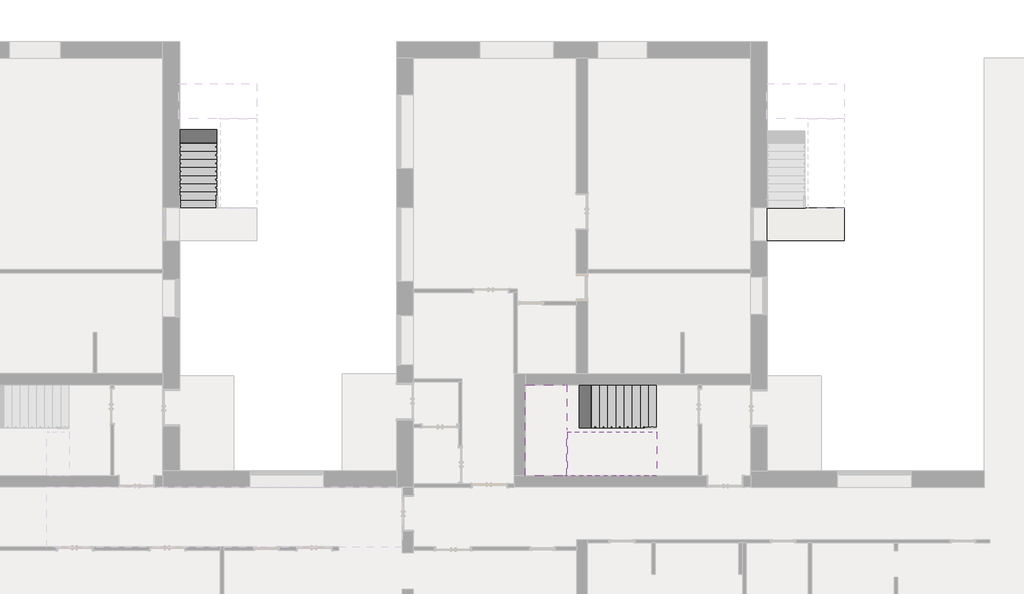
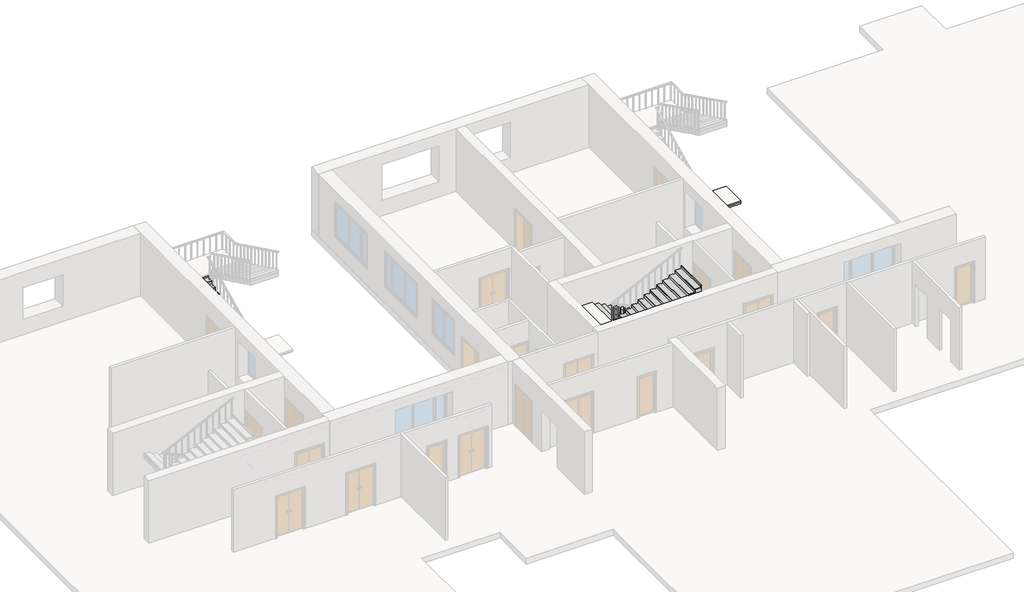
# One storey, part 8 of 10: 3 stair flights, 2 slabs.
"""IFC4 building model written with IfcOpenShell, lengths in millimetres."""

from ifc_helpers import new_model, si_unit, frame, origin, origin_with_axes, place, context, project, spatial, polyline, outline, extrude, faceted_brep, element, save

model = new_model("IFC4")

# Units and contexts
model_context = context("Model", 3, world=origin())
ifc_project = project(units=[si_unit("LENGTHUNIT", "METRE", prefix="MILLI")], contexts=[model_context])

# Site, building, storey
site = spatial("IfcSite", under=ifc_project)
building = spatial("IfcBuilding", under=site)
storey = spatial("IfcBuildingStorey", under=building, Name="1 этаж", Elevation=0.0)

# Slabs
placement = place(None, origin())
element("IfcSlab", 1, ObjectType="ADSK_Монолитная_С отделкой_200х80", at=placement, inside=storey, context=model_context, shape_type="SweptSolid", body=[
    extrude(outline(polyline([(-312.3240021, 16519.4362632), (-312.3240021, 15318.4207341), (-3162.3240021, 15318.4207341), (-3162.3240021, 16519.4362632), (-312.3240021, 16519.4362632)])), origin_with_axes(), (0.0, 0.0, 1.0), 65.8333333),
    extrude(outline(polyline([(-312.3240021, 15318.4207341), (-3162.3240021, 15318.4207341), (-3162.3240021, 16519.4362632), (-312.3240021, 16519.4362632), (-312.3240021, 15318.4207341)])), frame((0.0, 0.0, 65.8333333), z_axis=(0.0, 0.0, 1.0), x_axis=(1.0, 0.0, 0.0)), (0.0, 0.0, 1.0), 80.0),
])
element("IfcSlab", 2, ObjectType="ADSK_Монолитная_С отделкой_200х80", at=placement, inside=storey, context=model_context, shape_type="SolidModel", body=[
    faceted_brep([(-10541.6291278, 8412.4648158, 1697.7777778), (-10556.6291278, 8412.4648158, 1697.7777778), (-10556.6291278, 10004.6370105, 1697.7777778), (-10689.1475775, 10004.6370105, 1697.7777778), (-12072.3240021, 10004.6370105, 1697.7777778), (-12072.3240021, 6644.6370105, 1697.7777778), (-10694.1106781, 6644.6370105, 1697.7777778), (-10541.6291278, 6644.6370105, 1697.7777778), (-10526.6291278, 6644.6370105, 1697.7777778), (-10526.6291278, 8271.6648158, 1697.7777778), (-10541.6291278, 8271.6648158, 1697.7777778), (-10556.6291278, 8412.4648158, 1599.6296296), (-10556.6291278, 8412.4648158, 1497.7777778), (-10556.6291278, 8412.4648158, 1432.3365681), (-10556.6291278, 10004.6370105, 1432.3365681), (-10556.6291278, 10004.6370105, 1599.6296296), (-10541.6291278, 8271.6648158, 1573.0773088), (-10541.6291278, 8271.6648158, 1497.7777778), (-10541.6291278, 8412.4648158, 1497.7777778), (-10526.6291278, 6644.6370105, 1580.4847162), (-10526.6291278, 8271.6648158, 1580.4847162), (-10541.6291278, 6644.6370105, 1573.0773088), (-12072.3240021, 6644.6370105, 1497.7777778), (-10694.1106781, 6644.6370105, 1497.7777778), (-12072.3240021, 10004.6370105, 1497.7777778), (-10689.1475775, 10004.6370105, 1497.7777778), (-10694.1106781, 8271.6648158, 1497.7777778), (-10689.1475775, 8412.4648158, 1497.7777778)], [[[0, 1, 2, 3, 4, 5, 6, 7, 8, 9, 10]], [[2, 1, 11, 12, 13, 14, 15]], [[0, 10, 16, 17, 18]], [[9, 8, 19, 20]], [[8, 7, 21, 19]], [[5, 22, 23, 21, 7, 6]], [[5, 4, 24, 22]], [[2, 15, 14, 25, 24, 4, 3]], [[17, 26, 23, 22, 24, 25, 27, 12, 18]], [[27, 25, 14, 13]], [[12, 27, 13]], [[23, 26, 16, 20, 19, 21]], [[1, 0, 18, 12, 11]], [[10, 9, 20, 16]], [[26, 17, 16]]]),
    extrude(outline(polyline([(-10541.6291278, 8412.4648158), (-10541.6291278, 8271.6648158), (-10541.6291278, 6644.6370105), (-12072.3240021, 6644.6370105), (-12072.3240021, 10004.6370105), (-10541.6291278, 10004.6370105), (-10541.6291278, 8412.4648158)])), frame((0.0, 0.0, 1697.7777778), z_axis=(0.0, 0.0, 1.0), x_axis=(1.0, 0.0, 0.0)), (0.0, 0.0, 1.0), 80.0),
])

# Stair flights
element("IfcStairFlight", 3, ObjectType="ADSK_Монолитный_С отделкой_150х30х15", at=placement, inside=storey, context=model_context, shape_type="SolidModel", body=[
    faceted_brep([(-24802.3240021, 16834.4362632, 115.8333333), (-24802.3240021, 16534.4362632, 115.8333333), (-23422.7240021, 16534.4362632, 115.8333333), (-23422.7240021, 16834.4362632, 115.8333333), (-24802.3240021, 16834.4362632, 0.0), (-24802.3240021, 16534.4362632, 0.0), (-23422.7240021, 16534.4362632, 0.0), (-23422.7240021, 16834.4362632, 0.0), (-24802.3240021, 17134.4362632, 261.6666667), (-24802.3240021, 16834.4362632, 261.6666667), (-23422.7240021, 16834.4362632, 261.6666667), (-23422.7240021, 17134.4362632, 261.6666667), (-24802.3240021, 17134.4362632, 94.8828537), (-24802.3240021, 16939.2486785, 0.0), (-23422.7240021, 16939.2486785, 0.0), (-23422.7240021, 17134.4362632, 94.8828537), (-24802.3240021, 17434.4362632, 407.5), (-24802.3240021, 17134.4362632, 407.5), (-23422.7240021, 17134.4362632, 407.5), (-23422.7240021, 17434.4362632, 407.5), (-24802.3240021, 17434.4362632, 240.716187), (-23422.7240021, 17434.4362632, 240.716187), (-24802.3240021, 17734.4362632, 553.3333333), (-24802.3240021, 17434.4362632, 553.3333333), (-23422.7240021, 17434.4362632, 553.3333333), (-23422.7240021, 17734.4362632, 553.3333333), (-24802.3240021, 17734.4362632, 386.5495203), (-23422.7240021, 17734.4362632, 386.5495203), (-24802.3240021, 18034.4362632, 699.1666667), (-24802.3240021, 17734.4362632, 699.1666667), (-23422.7240021, 17734.4362632, 699.1666667), (-23422.7240021, 18034.4362632, 699.1666667), (-24802.3240021, 18034.4362632, 532.3828537), (-23422.7240021, 18034.4362632, 532.3828537), (-24802.3240021, 18334.4362632, 845.0), (-24802.3240021, 18034.4362632, 845.0), (-23422.7240021, 18034.4362632, 845.0), (-23422.7240021, 18334.4362632, 845.0), (-24802.3240021, 18334.4362632, 678.216187), (-23422.7240021, 18334.4362632, 678.216187), (-24802.3240021, 18634.4362632, 990.8333333), (-24802.3240021, 18334.4362632, 990.8333333), (-23422.7240021, 18334.4362632, 990.8333333), (-23422.7240021, 18634.4362632, 990.8333333), (-24802.3240021, 18634.4362632, 824.0495203), (-23422.7240021, 18634.4362632, 824.0495203), (-24802.3240021, 18934.4362632, 1136.6666667), (-24802.3240021, 18634.4362632, 1136.6666667), (-23422.7240021, 18634.4362632, 1136.6666667), (-23422.7240021, 18934.4362632, 1136.6666667), (-24802.3240021, 18934.4362632, 969.8828537), (-23422.7240021, 18934.4362632, 969.8828537), (-24802.3240021, 19234.4362632, 1282.5), (-24802.3240021, 18934.4362632, 1282.5), (-23422.7240021, 18934.4362632, 1282.5), (-23422.7240021, 19234.4362632, 1282.5), (-24802.3240021, 19234.4362632, 1115.716187), (-23422.7240021, 19234.4362632, 1115.716187), (-24802.3240021, 19534.4362632, 1428.3333333), (-24802.3240021, 19234.4362632, 1428.3333333), (-23422.7240021, 19234.4362632, 1428.3333333), (-23422.7240021, 19534.4362632, 1428.3333333), (-24802.3240021, 19534.4362632, 1261.5495203), (-23422.7240021, 19534.4362632, 1261.5495203), (-24802.3240021, 19534.4362632, 1574.1666667), (-23422.7240021, 19534.4362632, 1574.1666667), (-23422.7240021, 19819.4362632, 1574.1666667), (-23422.7240021, 19834.4362632, 1574.1666667), (-24802.3240021, 19834.4362632, 1574.1666667), (-24802.3240021, 19819.4362632, 1574.1666667), (-24802.3240021, 19834.4362632, 1470.0), (-24802.3240021, 19834.4362632, 1407.3828537), (-23422.7240021, 19834.4362632, 1407.3828537), (-23422.7240021, 19834.4362632, 1470.0)], [[[0, 1, 2, 3]], [[1, 0, 4, 5]], [[2, 1, 5, 6]], [[3, 2, 6, 7]], [[8, 9, 10, 11]], [[4, 0, 9, 8, 12, 13]], [[0, 3, 10, 9]], [[3, 7, 14, 15, 11, 10]], [[16, 17, 18, 19]], [[17, 16, 20, 12, 8]], [[8, 11, 18, 17]], [[19, 18, 11, 15, 21]], [[22, 23, 24, 25]], [[23, 22, 26, 20, 16]], [[16, 19, 24, 23]], [[25, 24, 19, 21, 27]], [[28, 29, 30, 31]], [[29, 28, 32, 26, 22]], [[22, 25, 30, 29]], [[31, 30, 25, 27, 33]], [[34, 35, 36, 37]], [[35, 34, 38, 32, 28]], [[28, 31, 36, 35]], [[37, 36, 31, 33, 39]], [[40, 41, 42, 43]], [[41, 40, 44, 38, 34]], [[34, 37, 42, 41]], [[43, 42, 37, 39, 45]], [[46, 47, 48, 49]], [[47, 46, 50, 44, 40]], [[40, 43, 48, 47]], [[49, 48, 43, 45, 51]], [[52, 53, 54, 55]], [[53, 52, 56, 50, 46]], [[46, 49, 54, 53]], [[55, 54, 49, 51, 57]], [[58, 59, 60, 61]], [[59, 58, 62, 56, 52]], [[52, 55, 60, 59]], [[61, 60, 55, 57, 63]], [[64, 65, 66, 67, 68, 69]], [[58, 64, 69, 68, 70, 71, 62]], [[58, 61, 65, 64]], [[65, 61, 63, 72, 73, 67, 66]], [[68, 67, 73, 72, 71, 70]], [[5, 4, 13, 14, 7, 6]], [[14, 13, 12, 20, 26, 32, 38, 44, 50, 56, 62, 71, 72, 63, 57, 51, 45, 39, 33, 27, 21, 15]]]),
    extrude(outline(polyline([(-23422.7240021, 16534.4362632), (-23422.7240021, 16519.4362632), (-24802.3240021, 16519.4362632), (-24802.3240021, 16534.4362632), (-23422.7240021, 16534.4362632)])), origin_with_axes(), (0.0, 0.0, 1.0), 115.8333333),
    extrude(outline(polyline([(-24802.3240021, 16819.4362632), (-23422.7240021, 16819.4362632), (-23422.7240021, 16519.4362632), (-24802.3240021, 16519.4362632), (-24802.3240021, 16819.4362632)])), frame((0.0, 0.0, 115.8333333), z_axis=(0.0, 0.0, 1.0), x_axis=(1.0, 0.0, 0.0)), (0.0, 0.0, 1.0), 30.0),
    extrude(outline(polyline([(-23422.7240021, 16834.4362632), (-23422.7240021, 16819.4362632), (-24802.3240021, 16819.4362632), (-24802.3240021, 16834.4362632), (-23422.7240021, 16834.4362632)])), frame((0.0, 0.0, 115.8333333), z_axis=(0.0, 0.0, 1.0), x_axis=(1.0, 0.0, 0.0)), (0.0, 0.0, 1.0), 145.8333333),
    extrude(outline(polyline([(-24802.3240021, 17119.4362632), (-23422.7240021, 17119.4362632), (-23422.7240021, 16819.4362632), (-24802.3240021, 16819.4362632), (-24802.3240021, 17119.4362632)])), frame((0.0, 0.0, 261.6666667), z_axis=(0.0, 0.0, 1.0), x_axis=(1.0, 0.0, 0.0)), (0.0, 0.0, 1.0), 30.0),
    extrude(outline(polyline([(-23422.7240021, 17134.4362632), (-23422.7240021, 17119.4362632), (-24802.3240021, 17119.4362632), (-24802.3240021, 17134.4362632), (-23422.7240021, 17134.4362632)])), frame((0.0, 0.0, 261.6666667), z_axis=(0.0, 0.0, 1.0), x_axis=(1.0, 0.0, 0.0)), (0.0, 0.0, 1.0), 145.8333333),
    extrude(outline(polyline([(-24802.3240021, 17419.4362632), (-23422.7240021, 17419.4362632), (-23422.7240021, 17119.4362632), (-24802.3240021, 17119.4362632), (-24802.3240021, 17419.4362632)])), frame((0.0, 0.0, 407.5), z_axis=(0.0, 0.0, 1.0), x_axis=(1.0, 0.0, 0.0)), (0.0, 0.0, 1.0), 30.0),
    extrude(outline(polyline([(-23422.7240021, 17434.4362632), (-23422.7240021, 17419.4362632), (-24802.3240021, 17419.4362632), (-24802.3240021, 17434.4362632), (-23422.7240021, 17434.4362632)])), frame((0.0, 0.0, 407.5), z_axis=(0.0, 0.0, 1.0), x_axis=(1.0, 0.0, 0.0)), (0.0, 0.0, 1.0), 145.8333333),
    extrude(outline(polyline([(-24802.3240021, 17719.4362632), (-23422.7240021, 17719.4362632), (-23422.7240021, 17419.4362632), (-24802.3240021, 17419.4362632), (-24802.3240021, 17719.4362632)])), frame((0.0, 0.0, 553.3333333), z_axis=(0.0, 0.0, 1.0), x_axis=(1.0, 0.0, 0.0)), (0.0, 0.0, 1.0), 30.0),
    extrude(outline(polyline([(-23422.7240021, 17734.4362632), (-23422.7240021, 17719.4362632), (-24802.3240021, 17719.4362632), (-24802.3240021, 17734.4362632), (-23422.7240021, 17734.4362632)])), frame((0.0, 0.0, 553.3333333), z_axis=(0.0, 0.0, 1.0), x_axis=(1.0, 0.0, 0.0)), (0.0, 0.0, 1.0), 145.8333333),
    extrude(outline(polyline([(-24802.3240021, 18019.4362632), (-23422.7240021, 18019.4362632), (-23422.7240021, 17719.4362632), (-24802.3240021, 17719.4362632), (-24802.3240021, 18019.4362632)])), frame((0.0, 0.0, 699.1666667), z_axis=(0.0, 0.0, 1.0), x_axis=(1.0, 0.0, 0.0)), (0.0, 0.0, 1.0), 30.0),
    extrude(outline(polyline([(-23422.7240021, 18034.4362632), (-23422.7240021, 18019.4362632), (-24802.3240021, 18019.4362632), (-24802.3240021, 18034.4362632), (-23422.7240021, 18034.4362632)])), frame((0.0, 0.0, 699.1666667), z_axis=(0.0, 0.0, 1.0), x_axis=(1.0, 0.0, 0.0)), (0.0, 0.0, 1.0), 145.8333333),
    extrude(outline(polyline([(-24802.3240021, 18319.4362632), (-23422.7240021, 18319.4362632), (-23422.7240021, 18019.4362632), (-24802.3240021, 18019.4362632), (-24802.3240021, 18319.4362632)])), frame((0.0, 0.0, 845.0), z_axis=(0.0, 0.0, 1.0), x_axis=(1.0, 0.0, 0.0)), (0.0, 0.0, 1.0), 30.0),
    extrude(outline(polyline([(-23422.7240021, 18334.4362632), (-23422.7240021, 18319.4362632), (-24802.3240021, 18319.4362632), (-24802.3240021, 18334.4362632), (-23422.7240021, 18334.4362632)])), frame((0.0, 0.0, 845.0), z_axis=(0.0, 0.0, 1.0), x_axis=(1.0, 0.0, 0.0)), (0.0, 0.0, 1.0), 145.8333333),
    extrude(outline(polyline([(-24802.3240021, 18619.4362632), (-23422.7240021, 18619.4362632), (-23422.7240021, 18319.4362632), (-24802.3240021, 18319.4362632), (-24802.3240021, 18619.4362632)])), frame((0.0, 0.0, 990.8333333), z_axis=(0.0, 0.0, 1.0), x_axis=(1.0, 0.0, 0.0)), (0.0, 0.0, 1.0), 30.0),
    extrude(outline(polyline([(-23422.7240021, 18634.4362632), (-23422.7240021, 18619.4362632), (-24802.3240021, 18619.4362632), (-24802.3240021, 18634.4362632), (-23422.7240021, 18634.4362632)])), frame((0.0, 0.0, 990.8333333), z_axis=(0.0, 0.0, 1.0), x_axis=(1.0, 0.0, 0.0)), (0.0, 0.0, 1.0), 145.8333333),
    extrude(outline(polyline([(-24802.3240021, 18919.4362632), (-23422.7240021, 18919.4362632), (-23422.7240021, 18619.4362632), (-24802.3240021, 18619.4362632), (-24802.3240021, 18919.4362632)])), frame((0.0, 0.0, 1136.6666667), z_axis=(0.0, 0.0, 1.0), x_axis=(1.0, 0.0, 0.0)), (0.0, 0.0, 1.0), 30.0),
    extrude(outline(polyline([(-23422.7240021, 18934.4362632), (-23422.7240021, 18919.4362632), (-24802.3240021, 18919.4362632), (-24802.3240021, 18934.4362632), (-23422.7240021, 18934.4362632)])), frame((0.0, 0.0, 1136.6666667), z_axis=(0.0, 0.0, 1.0), x_axis=(1.0, 0.0, 0.0)), (0.0, 0.0, 1.0), 145.8333333),
    extrude(outline(polyline([(-24802.3240021, 19219.4362632), (-23422.7240021, 19219.4362632), (-23422.7240021, 18919.4362632), (-24802.3240021, 18919.4362632), (-24802.3240021, 19219.4362632)])), frame((0.0, 0.0, 1282.5), z_axis=(0.0, 0.0, 1.0), x_axis=(1.0, 0.0, 0.0)), (0.0, 0.0, 1.0), 30.0),
    extrude(outline(polyline([(-23422.7240021, 19234.4362632), (-23422.7240021, 19219.4362632), (-24802.3240021, 19219.4362632), (-24802.3240021, 19234.4362632), (-23422.7240021, 19234.4362632)])), frame((0.0, 0.0, 1282.5), z_axis=(0.0, 0.0, 1.0), x_axis=(1.0, 0.0, 0.0)), (0.0, 0.0, 1.0), 145.8333333),
    extrude(outline(polyline([(-24802.3240021, 19519.4362632), (-23422.7240021, 19519.4362632), (-23422.7240021, 19219.4362632), (-24802.3240021, 19219.4362632), (-24802.3240021, 19519.4362632)])), frame((0.0, 0.0, 1428.3333333), z_axis=(0.0, 0.0, 1.0), x_axis=(1.0, 0.0, 0.0)), (0.0, 0.0, 1.0), 30.0),
    extrude(outline(polyline([(-23422.7240021, 19534.4362632), (-23422.7240021, 19519.4362632), (-24802.3240021, 19519.4362632), (-24802.3240021, 19534.4362632), (-23422.7240021, 19534.4362632)])), frame((0.0, 0.0, 1428.3333333), z_axis=(0.0, 0.0, 1.0), x_axis=(1.0, 0.0, 0.0)), (0.0, 0.0, 1.0), 145.8333333),
    extrude(outline(polyline([(-23422.7240021, 19834.4362632), (-23422.7240021, 19819.4362632), (-24802.3240021, 19819.4362632), (-24802.3240021, 19834.4362632), (-23422.7240021, 19834.4362632)])), frame((0.0, 0.0, 1574.1666667), z_axis=(0.0, 0.0, 1.0), x_axis=(1.0, 0.0, 0.0)), (0.0, 0.0, 1.0), 95.8333333),
    extrude(outline(polyline([(-24802.3240021, 19819.4362632), (-23422.7240021, 19819.4362632), (-23422.7240021, 19519.4362632), (-24802.3240021, 19519.4362632), (-24802.3240021, 19819.4362632)])), frame((0.0, 0.0, 1574.1666667), z_axis=(0.0, 0.0, 1.0), x_axis=(1.0, 0.0, 0.0)), (0.0, 0.0, 1.0), 30.0),
])
element("IfcStairFlight", 4, ObjectType="ADSK_Монолитный_С отделкой_150х30х15", at=placement, inside=storey, context=model_context, shape_type="SolidModel", body=[
    faceted_brep([(-7556.6291278, 8412.4648158, 118.1481481), (-7256.6291278, 8412.4648158, 118.1481481), (-7256.6291278, 10004.6370105, 118.1481481), (-7556.6291278, 10004.6370105, 118.1481481), (-7256.6291278, 10004.6370105, 0.0), (-7556.6291278, 10004.6370105, 0.0), (-7256.6291278, 8412.4648158, 0.0), (-7556.6291278, 8412.4648158, 0.0), (-7856.6291278, 8412.4648158, 266.2962963), (-7556.6291278, 8412.4648158, 266.2962963), (-7556.6291278, 10004.6370105, 266.2962963), (-7856.6291278, 10004.6370105, 266.2962963), (-7656.1475775, 10004.6370105, 0.0), (-7856.6291278, 10004.6370105, 99.0032347), (-7856.6291278, 8412.4648158, 99.0032347), (-7656.1475775, 8412.4648158, 0.0), (-8156.6291278, 8412.4648158, 414.4444444), (-7856.6291278, 8412.4648158, 414.4444444), (-7856.6291278, 10004.6370105, 414.4444444), (-8156.6291278, 10004.6370105, 414.4444444), (-8156.6291278, 10004.6370105, 247.1513829), (-8156.6291278, 8412.4648158, 247.1513829), (-8456.6291278, 8412.4648158, 562.5925926), (-8156.6291278, 8412.4648158, 562.5925926), (-8156.6291278, 10004.6370105, 562.5925926), (-8456.6291278, 10004.6370105, 562.5925926), (-8456.6291278, 10004.6370105, 395.299531), (-8456.6291278, 8412.4648158, 395.299531), (-8756.6291278, 8412.4648158, 710.7407407), (-8456.6291278, 8412.4648158, 710.7407407), (-8456.6291278, 10004.6370105, 710.7407407), (-8756.6291278, 10004.6370105, 710.7407407), (-8756.6291278, 10004.6370105, 543.4476792), (-8756.6291278, 8412.4648158, 543.4476792), (-9056.6291278, 8412.4648158, 858.8888889), (-8756.6291278, 8412.4648158, 858.8888889), (-8756.6291278, 10004.6370105, 858.8888889), (-9056.6291278, 10004.6370105, 858.8888889), (-9056.6291278, 10004.6370105, 691.5958273), (-9056.6291278, 8412.4648158, 691.5958273), (-9356.6291278, 8412.4648158, 1007.037037), (-9056.6291278, 8412.4648158, 1007.037037), (-9056.6291278, 10004.6370105, 1007.037037), (-9356.6291278, 10004.6370105, 1007.037037), (-9356.6291278, 10004.6370105, 839.7439755), (-9356.6291278, 8412.4648158, 839.7439755), (-9656.6291278, 8412.4648158, 1155.1851852), (-9356.6291278, 8412.4648158, 1155.1851852), (-9356.6291278, 10004.6370105, 1155.1851852), (-9656.6291278, 10004.6370105, 1155.1851852), (-9656.6291278, 10004.6370105, 987.8921236), (-9656.6291278, 8412.4648158, 987.8921236), (-9956.6291278, 8412.4648158, 1303.3333333), (-9656.6291278, 8412.4648158, 1303.3333333), (-9656.6291278, 10004.6370105, 1303.3333333), (-9956.6291278, 10004.6370105, 1303.3333333), (-9956.6291278, 10004.6370105, 1136.0402718), (-9956.6291278, 8412.4648158, 1136.0402718), (-10256.6291278, 8412.4648158, 1451.4814815), (-9956.6291278, 8412.4648158, 1451.4814815), (-9956.6291278, 10004.6370105, 1451.4814815), (-10256.6291278, 10004.6370105, 1451.4814815), (-10256.6291278, 10004.6370105, 1284.1884199), (-10256.6291278, 8412.4648158, 1284.1884199), (-10256.6291278, 8412.4648158, 1599.6296296), (-10256.6291278, 10004.6370105, 1599.6296296), (-10556.6291278, 10004.6370105, 1599.6296296), (-10556.6291278, 8412.4648158, 1599.6296296), (-10541.6291278, 8412.4648158, 1599.6296296), (-10556.6291278, 10004.6370105, 1432.3365681), (-10556.6291278, 8412.4648158, 1497.7777778), (-10556.6291278, 8412.4648158, 1432.3365681)], [[[0, 1, 2, 3]], [[3, 2, 4, 5]], [[2, 1, 6, 4]], [[1, 0, 7, 6]], [[8, 9, 10, 11]], [[3, 5, 12, 13, 11, 10]], [[0, 3, 10, 9]], [[7, 0, 9, 8, 14, 15]], [[16, 17, 18, 19]], [[19, 18, 11, 13, 20]], [[8, 11, 18, 17]], [[17, 16, 21, 14, 8]], [[22, 23, 24, 25]], [[25, 24, 19, 20, 26]], [[16, 19, 24, 23]], [[23, 22, 27, 21, 16]], [[28, 29, 30, 31]], [[31, 30, 25, 26, 32]], [[22, 25, 30, 29]], [[29, 28, 33, 27, 22]], [[34, 35, 36, 37]], [[37, 36, 31, 32, 38]], [[28, 31, 36, 35]], [[35, 34, 39, 33, 28]], [[40, 41, 42, 43]], [[43, 42, 37, 38, 44]], [[34, 37, 42, 41]], [[41, 40, 45, 39, 34]], [[46, 47, 48, 49]], [[49, 48, 43, 44, 50]], [[40, 43, 48, 47]], [[47, 46, 51, 45, 40]], [[52, 53, 54, 55]], [[55, 54, 49, 50, 56]], [[46, 49, 54, 53]], [[53, 52, 57, 51, 46]], [[58, 59, 60, 61]], [[61, 60, 55, 56, 62]], [[52, 55, 60, 59]], [[59, 58, 63, 57, 52]], [[64, 65, 66, 67, 68]], [[66, 65, 61, 62, 69]], [[58, 61, 65, 64]], [[58, 64, 68, 67, 70, 71, 63]], [[67, 66, 69, 71, 70]], [[6, 7, 15, 12, 5, 4]], [[12, 15, 14, 21, 27, 33, 39, 45, 51, 57, 63, 71, 69, 62, 56, 50, 44, 38, 32, 26, 20, 13]]]),
    extrude(outline(polyline([(-7256.6291278, 10004.6370105), (-7241.6291278, 10004.6370105), (-7241.6291278, 8412.4648158), (-7256.6291278, 8412.4648158), (-7256.6291278, 10004.6370105)])), origin_with_axes(), (0.0, 0.0, 1.0), 118.1481481),
    extrude(outline(polyline([(-7541.6291278, 8412.4648158), (-7541.6291278, 10004.6370105), (-7241.6291278, 10004.6370105), (-7241.6291278, 8412.4648158), (-7541.6291278, 8412.4648158)])), frame((0.0, 0.0, 118.1481481), z_axis=(0.0, 0.0, 1.0), x_axis=(1.0, 0.0, 0.0)), (0.0, 0.0, 1.0), 30.0),
    extrude(outline(polyline([(-7556.6291278, 10004.6370105), (-7541.6291278, 10004.6370105), (-7541.6291278, 8412.4648158), (-7556.6291278, 8412.4648158), (-7556.6291278, 10004.6370105)])), frame((0.0, 0.0, 118.1481481), z_axis=(0.0, 0.0, 1.0), x_axis=(1.0, 0.0, 0.0)), (0.0, 0.0, 1.0), 148.1481481),
    extrude(outline(polyline([(-7841.6291278, 8412.4648158), (-7841.6291278, 10004.6370105), (-7541.6291278, 10004.6370105), (-7541.6291278, 8412.4648158), (-7841.6291278, 8412.4648158)])), frame((0.0, 0.0, 266.2962963), z_axis=(0.0, 0.0, 1.0), x_axis=(1.0, 0.0, 0.0)), (0.0, 0.0, 1.0), 30.0),
    extrude(outline(polyline([(-7856.6291278, 10004.6370105), (-7841.6291278, 10004.6370105), (-7841.6291278, 8412.4648158), (-7856.6291278, 8412.4648158), (-7856.6291278, 10004.6370105)])), frame((0.0, 0.0, 266.2962963), z_axis=(0.0, 0.0, 1.0), x_axis=(1.0, 0.0, 0.0)), (0.0, 0.0, 1.0), 148.1481481),
    extrude(outline(polyline([(-8141.6291278, 8412.4648158), (-8141.6291278, 10004.6370105), (-7841.6291278, 10004.6370105), (-7841.6291278, 8412.4648158), (-8141.6291278, 8412.4648158)])), frame((0.0, 0.0, 414.4444444), z_axis=(0.0, 0.0, 1.0), x_axis=(1.0, 0.0, 0.0)), (0.0, 0.0, 1.0), 30.0),
    extrude(outline(polyline([(-8156.6291278, 10004.6370105), (-8141.6291278, 10004.6370105), (-8141.6291278, 8412.4648158), (-8156.6291278, 8412.4648158), (-8156.6291278, 10004.6370105)])), frame((0.0, 0.0, 414.4444444), z_axis=(0.0, 0.0, 1.0), x_axis=(1.0, 0.0, 0.0)), (0.0, 0.0, 1.0), 148.1481481),
    extrude(outline(polyline([(-8441.6291278, 8412.4648158), (-8441.6291278, 10004.6370105), (-8141.6291278, 10004.6370105), (-8141.6291278, 8412.4648158), (-8441.6291278, 8412.4648158)])), frame((0.0, 0.0, 562.5925926), z_axis=(0.0, 0.0, 1.0), x_axis=(1.0, 0.0, 0.0)), (0.0, 0.0, 1.0), 30.0),
    extrude(outline(polyline([(-8456.6291278, 10004.6370105), (-8441.6291278, 10004.6370105), (-8441.6291278, 8412.4648158), (-8456.6291278, 8412.4648158), (-8456.6291278, 10004.6370105)])), frame((0.0, 0.0, 562.5925926), z_axis=(0.0, 0.0, 1.0), x_axis=(1.0, 0.0, 0.0)), (0.0, 0.0, 1.0), 148.1481481),
    extrude(outline(polyline([(-8741.6291278, 8412.4648158), (-8741.6291278, 10004.6370105), (-8441.6291278, 10004.6370105), (-8441.6291278, 8412.4648158), (-8741.6291278, 8412.4648158)])), frame((0.0, 0.0, 710.7407407), z_axis=(0.0, 0.0, 1.0), x_axis=(1.0, 0.0, 0.0)), (0.0, 0.0, 1.0), 30.0),
    extrude(outline(polyline([(-8756.6291278, 10004.6370105), (-8741.6291278, 10004.6370105), (-8741.6291278, 8412.4648158), (-8756.6291278, 8412.4648158), (-8756.6291278, 10004.6370105)])), frame((0.0, 0.0, 710.7407407), z_axis=(0.0, 0.0, 1.0), x_axis=(1.0, 0.0, 0.0)), (0.0, 0.0, 1.0), 148.1481481),
    extrude(outline(polyline([(-9041.6291278, 8412.4648158), (-9041.6291278, 10004.6370105), (-8741.6291278, 10004.6370105), (-8741.6291278, 8412.4648158), (-9041.6291278, 8412.4648158)])), frame((0.0, 0.0, 858.8888889), z_axis=(0.0, 0.0, 1.0), x_axis=(1.0, 0.0, 0.0)), (0.0, 0.0, 1.0), 30.0),
    extrude(outline(polyline([(-9056.6291278, 10004.6370105), (-9041.6291278, 10004.6370105), (-9041.6291278, 8412.4648158), (-9056.6291278, 8412.4648158), (-9056.6291278, 10004.6370105)])), frame((0.0, 0.0, 858.8888889), z_axis=(0.0, 0.0, 1.0), x_axis=(1.0, 0.0, 0.0)), (0.0, 0.0, 1.0), 148.1481481),
    extrude(outline(polyline([(-9341.6291278, 8412.4648158), (-9341.6291278, 10004.6370105), (-9041.6291278, 10004.6370105), (-9041.6291278, 8412.4648158), (-9341.6291278, 8412.4648158)])), frame((0.0, 0.0, 1007.037037), z_axis=(0.0, 0.0, 1.0), x_axis=(1.0, 0.0, 0.0)), (0.0, 0.0, 1.0), 30.0),
    extrude(outline(polyline([(-9356.6291278, 10004.6370105), (-9341.6291278, 10004.6370105), (-9341.6291278, 8412.4648158), (-9356.6291278, 8412.4648158), (-9356.6291278, 10004.6370105)])), frame((0.0, 0.0, 1007.037037), z_axis=(0.0, 0.0, 1.0), x_axis=(1.0, 0.0, 0.0)), (0.0, 0.0, 1.0), 148.1481481),
    extrude(outline(polyline([(-9641.6291278, 8412.4648158), (-9641.6291278, 10004.6370105), (-9341.6291278, 10004.6370105), (-9341.6291278, 8412.4648158), (-9641.6291278, 8412.4648158)])), frame((0.0, 0.0, 1155.1851852), z_axis=(0.0, 0.0, 1.0), x_axis=(1.0, 0.0, 0.0)), (0.0, 0.0, 1.0), 30.0),
    extrude(outline(polyline([(-9656.6291278, 10004.6370105), (-9641.6291278, 10004.6370105), (-9641.6291278, 8412.4648158), (-9656.6291278, 8412.4648158), (-9656.6291278, 10004.6370105)])), frame((0.0, 0.0, 1155.1851852), z_axis=(0.0, 0.0, 1.0), x_axis=(1.0, 0.0, 0.0)), (0.0, 0.0, 1.0), 148.1481481),
    extrude(outline(polyline([(-9941.6291278, 8412.4648158), (-9941.6291278, 10004.6370105), (-9641.6291278, 10004.6370105), (-9641.6291278, 8412.4648158), (-9941.6291278, 8412.4648158)])), frame((0.0, 0.0, 1303.3333333), z_axis=(0.0, 0.0, 1.0), x_axis=(1.0, 0.0, 0.0)), (0.0, 0.0, 1.0), 30.0),
    extrude(outline(polyline([(-9956.6291278, 10004.6370105), (-9941.6291278, 10004.6370105), (-9941.6291278, 8412.4648158), (-9956.6291278, 8412.4648158), (-9956.6291278, 10004.6370105)])), frame((0.0, 0.0, 1303.3333333), z_axis=(0.0, 0.0, 1.0), x_axis=(1.0, 0.0, 0.0)), (0.0, 0.0, 1.0), 148.1481481),
    extrude(outline(polyline([(-10241.6291278, 8412.4648158), (-10241.6291278, 10004.6370105), (-9941.6291278, 10004.6370105), (-9941.6291278, 8412.4648158), (-10241.6291278, 8412.4648158)])), frame((0.0, 0.0, 1451.4814815), z_axis=(0.0, 0.0, 1.0), x_axis=(1.0, 0.0, 0.0)), (0.0, 0.0, 1.0), 30.0),
    extrude(outline(polyline([(-10256.6291278, 10004.6370105), (-10241.6291278, 10004.6370105), (-10241.6291278, 8412.4648158), (-10256.6291278, 8412.4648158), (-10256.6291278, 10004.6370105)])), frame((0.0, 0.0, 1451.4814815), z_axis=(0.0, 0.0, 1.0), x_axis=(1.0, 0.0, 0.0)), (0.0, 0.0, 1.0), 148.1481481),
    extrude(outline(polyline([(-10556.6291278, 10004.6370105), (-10541.6291278, 10004.6370105), (-10541.6291278, 8412.4648158), (-10556.6291278, 8412.4648158), (-10556.6291278, 10004.6370105)])), frame((0.0, 0.0, 1599.6296296), z_axis=(0.0, 0.0, 1.0), x_axis=(1.0, 0.0, 0.0)), (0.0, 0.0, 1.0), 98.1481481),
    extrude(outline(polyline([(-10541.6291278, 8412.4648158), (-10541.6291278, 10004.6370105), (-10241.6291278, 10004.6370105), (-10241.6291278, 8412.4648158), (-10541.6291278, 8412.4648158)])), frame((0.0, 0.0, 1599.6296296), z_axis=(0.0, 0.0, 1.0), x_axis=(1.0, 0.0, 0.0)), (0.0, 0.0, 1.0), 30.0),
])
element("IfcStairFlight", 5, ObjectType="ADSK_Монолитный_С отделкой_150х30х15", at=placement, inside=storey, context=model_context, shape_type="SolidModel", body=[
    faceted_brep([(-10226.6291278, 8271.6648158, 1895.9259259), (-10526.6291278, 8271.6648158, 1895.9259259), (-10526.6291278, 6644.6370105, 1895.9259259), (-10226.6291278, 6644.6370105, 1895.9259259), (-10526.6291278, 6644.6370105, 1697.7777778), (-10526.6291278, 6644.6370105, 1580.4847162), (-10226.6291278, 6644.6370105, 1728.6328644), (-10526.6291278, 8271.6648158, 1697.7777778), (-10526.6291278, 8271.6648158, 1580.4847162), (-10226.6291278, 8271.6648158, 1728.6328644), (-9926.6291278, 8271.6648158, 2044.0740741), (-10226.6291278, 8271.6648158, 2044.0740741), (-10226.6291278, 6644.6370105, 2044.0740741), (-9926.6291278, 6644.6370105, 2044.0740741), (-9926.6291278, 6644.6370105, 1876.7810125), (-9926.6291278, 8271.6648158, 1876.7810125), (-9626.6291278, 8271.6648158, 2192.2222222), (-9926.6291278, 8271.6648158, 2192.2222222), (-9926.6291278, 6644.6370105, 2192.2222222), (-9626.6291278, 6644.6370105, 2192.2222222), (-9626.6291278, 6644.6370105, 2024.9291607), (-9626.6291278, 8271.6648158, 2024.9291607), (-9326.6291278, 8271.6648158, 2340.3703704), (-9626.6291278, 8271.6648158, 2340.3703704), (-9626.6291278, 6644.6370105, 2340.3703704), (-9326.6291278, 6644.6370105, 2340.3703704), (-9326.6291278, 6644.6370105, 2173.0773088), (-9326.6291278, 8271.6648158, 2173.0773088), (-9026.6291278, 8271.6648158, 2488.5185185), (-9326.6291278, 8271.6648158, 2488.5185185), (-9326.6291278, 6644.6370105, 2488.5185185), (-9026.6291278, 6644.6370105, 2488.5185185), (-9026.6291278, 6644.6370105, 2321.2254569), (-9026.6291278, 8271.6648158, 2321.2254569), (-8726.6291278, 8271.6648158, 2636.6666667), (-9026.6291278, 8271.6648158, 2636.6666667), (-9026.6291278, 6644.6370105, 2636.6666667), (-8726.6291278, 6644.6370105, 2636.6666667), (-8726.6291278, 6644.6370105, 2469.3736051), (-8726.6291278, 8271.6648158, 2469.3736051), (-8426.6291278, 8271.6648158, 2784.8148148), (-8726.6291278, 8271.6648158, 2784.8148148), (-8726.6291278, 6644.6370105, 2784.8148148), (-8426.6291278, 6644.6370105, 2784.8148148), (-8426.6291278, 6644.6370105, 2617.5217532), (-8426.6291278, 8271.6648158, 2617.5217532), (-8126.6291278, 8271.6648158, 2932.962963), (-8426.6291278, 8271.6648158, 2932.962963), (-8426.6291278, 6644.6370105, 2932.962963), (-8126.6291278, 6644.6370105, 2932.962963), (-8126.6291278, 6644.6370105, 2765.6699014), (-8126.6291278, 8271.6648158, 2765.6699014), (-7826.6291278, 8271.6648158, 3081.1111111), (-8126.6291278, 8271.6648158, 3081.1111111), (-8126.6291278, 6644.6370105, 3081.1111111), (-7826.6291278, 6644.6370105, 3081.1111111), (-7826.6291278, 6644.6370105, 2913.8180495), (-7826.6291278, 8271.6648158, 2913.8180495), (-7526.6291278, 8271.6648158, 3229.2592593), (-7826.6291278, 8271.6648158, 3229.2592593), (-7826.6291278, 6644.6370105, 3229.2592593), (-7526.6291278, 6644.6370105, 3229.2592593), (-7526.6291278, 6644.6370105, 3061.9661977), (-7526.6291278, 8271.6648158, 3061.9661977), (-7226.6291278, 8271.6648158, 3377.4074074), (-7526.6291278, 8271.6648158, 3377.4074074), (-7526.6291278, 6644.6370105, 3377.4074074), (-7226.6291278, 6644.6370105, 3377.4074074), (-7226.6291278, 6644.6370105, 3210.1143458), (-7226.6291278, 8271.6648158, 3210.1143458)], [[[0, 1, 2, 3]], [[3, 2, 4, 5, 6]], [[2, 1, 7, 8, 5, 4]], [[1, 0, 9, 8, 7]], [[10, 11, 12, 13]], [[13, 12, 3, 6, 14]], [[12, 11, 0, 3]], [[11, 10, 15, 9, 0]], [[16, 17, 18, 19]], [[19, 18, 13, 14, 20]], [[18, 17, 10, 13]], [[17, 16, 21, 15, 10]], [[22, 23, 24, 25]], [[25, 24, 19, 20, 26]], [[24, 23, 16, 19]], [[23, 22, 27, 21, 16]], [[28, 29, 30, 31]], [[31, 30, 25, 26, 32]], [[30, 29, 22, 25]], [[29, 28, 33, 27, 22]], [[34, 35, 36, 37]], [[37, 36, 31, 32, 38]], [[36, 35, 28, 31]], [[35, 34, 39, 33, 28]], [[40, 41, 42, 43]], [[43, 42, 37, 38, 44]], [[42, 41, 34, 37]], [[41, 40, 45, 39, 34]], [[46, 47, 48, 49]], [[49, 48, 43, 44, 50]], [[48, 47, 40, 43]], [[47, 46, 51, 45, 40]], [[52, 53, 54, 55]], [[55, 54, 49, 50, 56]], [[54, 53, 46, 49]], [[53, 52, 57, 51, 46]], [[58, 59, 60, 61]], [[61, 60, 55, 56, 62]], [[60, 59, 52, 55]], [[59, 58, 63, 57, 52]], [[64, 65, 66, 67]], [[67, 66, 61, 62, 68]], [[66, 65, 58, 61]], [[65, 64, 69, 63, 58]], [[64, 67, 68, 69]], [[8, 9, 15, 21, 27, 33, 39, 45, 51, 57, 63, 69, 68, 62, 56, 50, 44, 38, 32, 26, 20, 14, 6, 5]]]),
    extrude(outline(polyline([(-10526.6291278, 6644.6370105), (-10541.6291278, 6644.6370105), (-10541.6291278, 8271.6648158), (-10526.6291278, 8271.6648158), (-10526.6291278, 6644.6370105)])), frame((0.0, 0.0, 1697.7777778), z_axis=(0.0, 0.0, 1.0), x_axis=(1.0, 0.0, 0.0)), (0.0, 0.0, 1.0), 198.1481481),
    extrude(outline(polyline([(-10241.6291278, 8271.6648158), (-10241.6291278, 6644.6370105), (-10541.6291278, 6644.6370105), (-10541.6291278, 8271.6648158), (-10241.6291278, 8271.6648158)])), frame((0.0, 0.0, 1895.9259259), z_axis=(0.0, 0.0, 1.0), x_axis=(1.0, 0.0, 0.0)), (0.0, 0.0, 1.0), 30.0),
    extrude(outline(polyline([(-10226.6291278, 6644.6370105), (-10241.6291278, 6644.6370105), (-10241.6291278, 8271.6648158), (-10226.6291278, 8271.6648158), (-10226.6291278, 6644.6370105)])), frame((0.0, 0.0, 1895.9259259), z_axis=(0.0, 0.0, 1.0), x_axis=(1.0, 0.0, 0.0)), (0.0, 0.0, 1.0), 148.1481481),
    extrude(outline(polyline([(-9941.6291278, 8271.6648158), (-9941.6291278, 6644.6370105), (-10241.6291278, 6644.6370105), (-10241.6291278, 8271.6648158), (-9941.6291278, 8271.6648158)])), frame((0.0, 0.0, 2044.0740741), z_axis=(0.0, 0.0, 1.0), x_axis=(1.0, 0.0, 0.0)), (0.0, 0.0, 1.0), 30.0),
    extrude(outline(polyline([(-9926.6291278, 6644.6370105), (-9941.6291278, 6644.6370105), (-9941.6291278, 8271.6648158), (-9926.6291278, 8271.6648158), (-9926.6291278, 6644.6370105)])), frame((0.0, 0.0, 2044.0740741), z_axis=(0.0, 0.0, 1.0), x_axis=(1.0, 0.0, 0.0)), (0.0, 0.0, 1.0), 148.1481481),
    extrude(outline(polyline([(-9641.6291278, 8271.6648158), (-9641.6291278, 6644.6370105), (-9941.6291278, 6644.6370105), (-9941.6291278, 8271.6648158), (-9641.6291278, 8271.6648158)])), frame((0.0, 0.0, 2192.2222222), z_axis=(0.0, 0.0, 1.0), x_axis=(1.0, 0.0, 0.0)), (0.0, 0.0, 1.0), 30.0),
    extrude(outline(polyline([(-9626.6291278, 6644.6370105), (-9641.6291278, 6644.6370105), (-9641.6291278, 8271.6648158), (-9626.6291278, 8271.6648158), (-9626.6291278, 6644.6370105)])), frame((0.0, 0.0, 2192.2222222), z_axis=(0.0, 0.0, 1.0), x_axis=(1.0, 0.0, 0.0)), (0.0, 0.0, 1.0), 148.1481481),
    extrude(outline(polyline([(-9341.6291278, 8271.6648158), (-9341.6291278, 6644.6370105), (-9641.6291278, 6644.6370105), (-9641.6291278, 8271.6648158), (-9341.6291278, 8271.6648158)])), frame((0.0, 0.0, 2340.3703704), z_axis=(0.0, 0.0, 1.0), x_axis=(1.0, 0.0, 0.0)), (0.0, 0.0, 1.0), 30.0),
    extrude(outline(polyline([(-9326.6291278, 6644.6370105), (-9341.6291278, 6644.6370105), (-9341.6291278, 8271.6648158), (-9326.6291278, 8271.6648158), (-9326.6291278, 6644.6370105)])), frame((0.0, 0.0, 2340.3703704), z_axis=(0.0, 0.0, 1.0), x_axis=(1.0, 0.0, 0.0)), (0.0, 0.0, 1.0), 148.1481481),
    extrude(outline(polyline([(-9041.6291278, 8271.6648158), (-9041.6291278, 6644.6370105), (-9341.6291278, 6644.6370105), (-9341.6291278, 8271.6648158), (-9041.6291278, 8271.6648158)])), frame((0.0, 0.0, 2488.5185185), z_axis=(0.0, 0.0, 1.0), x_axis=(1.0, 0.0, 0.0)), (0.0, 0.0, 1.0), 30.0),
    extrude(outline(polyline([(-9026.6291278, 6644.6370105), (-9041.6291278, 6644.6370105), (-9041.6291278, 8271.6648158), (-9026.6291278, 8271.6648158), (-9026.6291278, 6644.6370105)])), frame((0.0, 0.0, 2488.5185185), z_axis=(0.0, 0.0, 1.0), x_axis=(1.0, 0.0, 0.0)), (0.0, 0.0, 1.0), 148.1481481),
    extrude(outline(polyline([(-8741.6291278, 8271.6648158), (-8741.6291278, 6644.6370105), (-9041.6291278, 6644.6370105), (-9041.6291278, 8271.6648158), (-8741.6291278, 8271.6648158)])), frame((0.0, 0.0, 2636.6666667), z_axis=(0.0, 0.0, 1.0), x_axis=(1.0, 0.0, 0.0)), (0.0, 0.0, 1.0), 30.0),
    extrude(outline(polyline([(-8726.6291278, 6644.6370105), (-8741.6291278, 6644.6370105), (-8741.6291278, 8271.6648158), (-8726.6291278, 8271.6648158), (-8726.6291278, 6644.6370105)])), frame((0.0, 0.0, 2636.6666667), z_axis=(0.0, 0.0, 1.0), x_axis=(1.0, 0.0, 0.0)), (0.0, 0.0, 1.0), 148.1481481),
    extrude(outline(polyline([(-8441.6291278, 8271.6648158), (-8441.6291278, 6644.6370105), (-8741.6291278, 6644.6370105), (-8741.6291278, 8271.6648158), (-8441.6291278, 8271.6648158)])), frame((0.0, 0.0, 2784.8148148), z_axis=(0.0, 0.0, 1.0), x_axis=(1.0, 0.0, 0.0)), (0.0, 0.0, 1.0), 30.0),
    extrude(outline(polyline([(-8426.6291278, 6644.6370105), (-8441.6291278, 6644.6370105), (-8441.6291278, 8271.6648158), (-8426.6291278, 8271.6648158), (-8426.6291278, 6644.6370105)])), frame((0.0, 0.0, 2784.8148148), z_axis=(0.0, 0.0, 1.0), x_axis=(1.0, 0.0, 0.0)), (0.0, 0.0, 1.0), 148.1481481),
    extrude(outline(polyline([(-8141.6291278, 8271.6648158), (-8141.6291278, 6644.6370105), (-8441.6291278, 6644.6370105), (-8441.6291278, 8271.6648158), (-8141.6291278, 8271.6648158)])), frame((0.0, 0.0, 2932.962963), z_axis=(0.0, 0.0, 1.0), x_axis=(1.0, 0.0, 0.0)), (0.0, 0.0, 1.0), 30.0),
    extrude(outline(polyline([(-8126.6291278, 6644.6370105), (-8141.6291278, 6644.6370105), (-8141.6291278, 8271.6648158), (-8126.6291278, 8271.6648158), (-8126.6291278, 6644.6370105)])), frame((0.0, 0.0, 2932.962963), z_axis=(0.0, 0.0, 1.0), x_axis=(1.0, 0.0, 0.0)), (0.0, 0.0, 1.0), 148.1481481),
    extrude(outline(polyline([(-7841.6291278, 8271.6648158), (-7841.6291278, 6644.6370105), (-8141.6291278, 6644.6370105), (-8141.6291278, 8271.6648158), (-7841.6291278, 8271.6648158)])), frame((0.0, 0.0, 3081.1111111), z_axis=(0.0, 0.0, 1.0), x_axis=(1.0, 0.0, 0.0)), (0.0, 0.0, 1.0), 30.0),
    extrude(outline(polyline([(-7826.6291278, 6644.6370105), (-7841.6291278, 6644.6370105), (-7841.6291278, 8271.6648158), (-7826.6291278, 8271.6648158), (-7826.6291278, 6644.6370105)])), frame((0.0, 0.0, 3081.1111111), z_axis=(0.0, 0.0, 1.0), x_axis=(1.0, 0.0, 0.0)), (0.0, 0.0, 1.0), 148.1481481),
    extrude(outline(polyline([(-7541.6291278, 8271.6648158), (-7541.6291278, 6644.6370105), (-7841.6291278, 6644.6370105), (-7841.6291278, 8271.6648158), (-7541.6291278, 8271.6648158)])), frame((0.0, 0.0, 3229.2592593), z_axis=(0.0, 0.0, 1.0), x_axis=(1.0, 0.0, 0.0)), (0.0, 0.0, 1.0), 30.0),
    extrude(outline(polyline([(-7526.6291278, 6644.6370105), (-7541.6291278, 6644.6370105), (-7541.6291278, 8271.6648158), (-7526.6291278, 8271.6648158), (-7526.6291278, 6644.6370105)])), frame((0.0, 0.0, 3229.2592593), z_axis=(0.0, 0.0, 1.0), x_axis=(1.0, 0.0, 0.0)), (0.0, 0.0, 1.0), 148.1481481),
    extrude(outline(polyline([(-7226.6291278, 6644.6370105), (-7241.6291278, 6644.6370105), (-7241.6291278, 8271.6648158), (-7226.6291278, 8271.6648158), (-7226.6291278, 6644.6370105)])), frame((0.0, 0.0, 3377.4074074), z_axis=(0.0, 0.0, 1.0), x_axis=(1.0, 0.0, 0.0)), (0.0, 0.0, 1.0), 148.1481481),
    extrude(outline(polyline([(-7241.6291278, 8271.6648158), (-7241.6291278, 6644.6370105), (-7541.6291278, 6644.6370105), (-7541.6291278, 8271.6648158), (-7241.6291278, 8271.6648158)])), frame((0.0, 0.0, 3377.4074074), z_axis=(0.0, 0.0, 1.0), x_axis=(1.0, 0.0, 0.0)), (0.0, 0.0, 1.0), 30.0),
])

save(model, "model.ifc")
